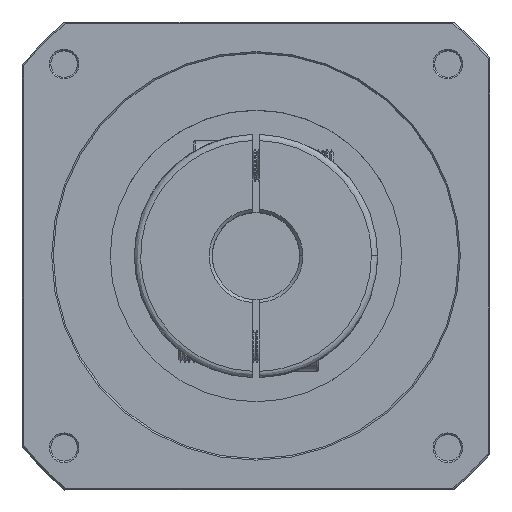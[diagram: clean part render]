
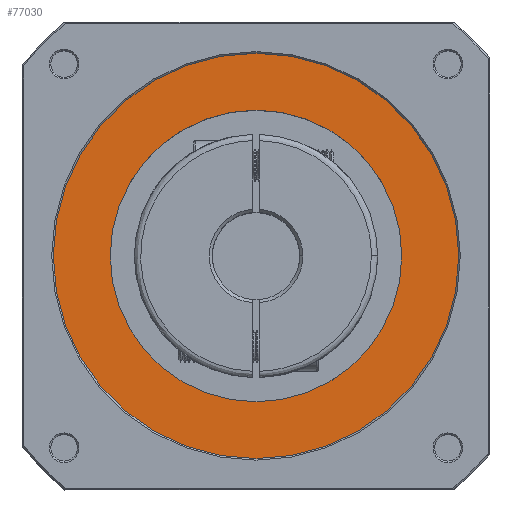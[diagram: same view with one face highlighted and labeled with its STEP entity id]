
A CAD part, top view. The second image highlights one B-rep face of the part: STEP entity #77030.
In plain terms, the highlighted planar face has unit normal (0, 0, -1).
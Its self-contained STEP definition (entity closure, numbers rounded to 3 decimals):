
#2189 = VERTEX_POINT ( 'NONE', #40658 ) ;
#5150 = FACE_OUTER_BOUND ( 'NONE', #16334, .T. ) ;
#9721 = AXIS2_PLACEMENT_3D ( 'NONE', #17664, #66818, #24754 ) ;
#10685 = ORIENTED_EDGE ( 'NONE', *, *, #13820, .T. ) ;
#11265 = CIRCLE ( 'NONE', #69174, 46.75 ) ;
#13820 = EDGE_CURVE ( 'NONE', #26409, #48758, #11265, .T. ) ;
#14309 = DIRECTION ( 'NONE',  ( 0., 0., -1. ) ) ;
#16334 = EDGE_LOOP ( 'NONE', ( #88467, #82974 ) ) ;
#17078 = EDGE_LOOP ( 'NONE', ( #32365, #10685 ) ) ;
#17354 = CIRCLE ( 'NONE', #56269, 46.75 ) ;
#17664 = CARTESIAN_POINT ( 'NONE',  ( 0., 0., 285.5 ) ) ;
#23366 = DIRECTION ( 'NONE',  ( 0., 0., 1. ) ) ;
#24017 = EDGE_CURVE ( 'NONE', #48758, #26409, #17354, .T. ) ;
#24754 = DIRECTION ( 'NONE',  ( 1., 0., 0. ) ) ;
#26198 = EDGE_CURVE ( 'NONE', #66895, #2189, #83879, .T. ) ;
#26409 = VERTEX_POINT ( 'NONE', #37237 ) ;
#30902 = EDGE_CURVE ( 'NONE', #2189, #66895, #90871, .T. ) ;
#31393 = DIRECTION ( 'NONE',  ( 0., 0., 1. ) ) ;
#31509 = DIRECTION ( 'NONE',  ( 0., 0., 1. ) ) ;
#32365 = ORIENTED_EDGE ( 'NONE', *, *, #24017, .T. ) ;
#37237 = CARTESIAN_POINT ( 'NONE',  ( 46.75, 0., 285.5 ) ) ;
#40658 = CARTESIAN_POINT ( 'NONE',  ( -65., 0., 285.5 ) ) ;
#45859 = AXIS2_PLACEMENT_3D ( 'NONE', #56366, #14309, #63409 ) ;
#48758 = VERTEX_POINT ( 'NONE', #88902 ) ;
#56269 = AXIS2_PLACEMENT_3D ( 'NONE', #65461, #23366, #72521 ) ;
#56366 = CARTESIAN_POINT ( 'NONE',  ( 0., 0., 285.5 ) ) ;
#58272 = AXIS2_PLACEMENT_3D ( 'NONE', #73485, #31393, #80564 ) ;
#62666 = CARTESIAN_POINT ( 'NONE',  ( 65., 0., 285.5 ) ) ;
#63409 = DIRECTION ( 'NONE',  ( 1., 0., 0. ) ) ;
#65461 = CARTESIAN_POINT ( 'NONE',  ( 0., 0., 285.5 ) ) ;
#66818 = DIRECTION ( 'NONE',  ( 0., 0., -1. ) ) ;
#66895 = VERTEX_POINT ( 'NONE', #62666 ) ;
#69174 = AXIS2_PLACEMENT_3D ( 'NONE', #73585, #31509, #80671 ) ;
#72521 = DIRECTION ( 'NONE',  ( -1., 0., 0. ) ) ;
#73485 = CARTESIAN_POINT ( 'NONE',  ( -65.78, -65.78, 285.5 ) ) ;
#73585 = CARTESIAN_POINT ( 'NONE',  ( 0., 0., 285.5 ) ) ;
#77030 = ADVANCED_FACE ( 'NONE', ( #77613, #5150 ), #87356, .F. ) ;
#77613 = FACE_BOUND ( 'NONE', #17078, .T. ) ;
#80564 = DIRECTION ( 'NONE',  ( 1., 0., 0. ) ) ;
#80671 = DIRECTION ( 'NONE',  ( -1., 0., 0. ) ) ;
#82974 = ORIENTED_EDGE ( 'NONE', *, *, #30902, .T. ) ;
#83879 = CIRCLE ( 'NONE', #45859, 65. ) ;
#87356 = PLANE ( 'NONE',  #58272 ) ;
#88467 = ORIENTED_EDGE ( 'NONE', *, *, #26198, .T. ) ;
#88902 = CARTESIAN_POINT ( 'NONE',  ( -46.75, 0., 285.5 ) ) ;
#90871 = CIRCLE ( 'NONE', #9721, 65. ) ;
